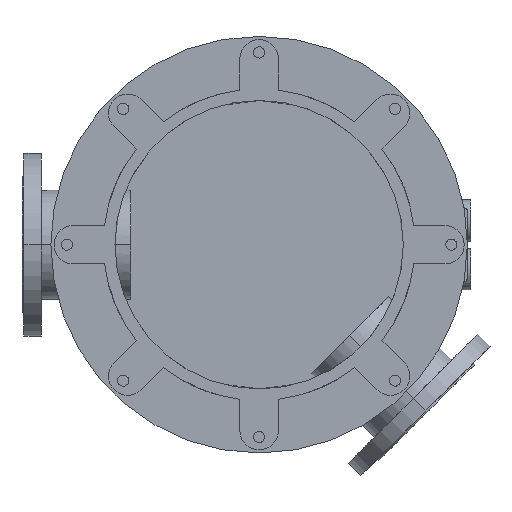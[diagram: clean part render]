
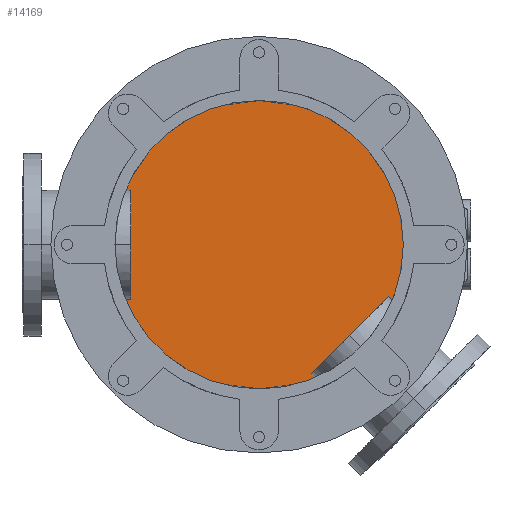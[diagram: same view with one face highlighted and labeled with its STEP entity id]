
A CAD part, front view. The second image highlights one B-rep face of the part: STEP entity #14169.
In plain terms, the highlighted planar face has unit normal (0, -1, 0).
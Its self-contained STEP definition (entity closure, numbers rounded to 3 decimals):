
#2808=CARTESIAN_POINT('',(0.,836.,0.));
#2809=DIRECTION('',(0.,-1.,0.));
#2810=DIRECTION('',(0.,0.,1.));
#2811=AXIS2_PLACEMENT_3D('',#2808,#2809,#2810);
#2935=CARTESIAN_POINT('',(0.,836.,0.));
#2936=DIRECTION('',(0.,-1.,0.));
#2937=DIRECTION('',(0.,0.,-1.));
#2938=AXIS2_PLACEMENT_3D('',#2935,#2936,#2937);
#9194=CARTESIAN_POINT('',(0.,836.,240.));
#9195=CARTESIAN_POINT('',(0.,836.,-240.));
#9196=VERTEX_POINT('',#9194);
#9197=VERTEX_POINT('',#9195);
#14159=CARTESIAN_POINT('',(0.,836.,0.));
#14160=DIRECTION('',(0.,1.,0.));
#14161=DIRECTION('',(0.,0.,-1.));
#14162=AXIS2_PLACEMENT_3D('',#14159,#14160,#14161);
#14163=PLANE('',#14162);
#14164=ORIENTED_EDGE('',*,*,#14143,.F.);
#14166=ORIENTED_EDGE('',*,*,#14165,.F.);
#14167=EDGE_LOOP('',(#14164,#14166));
#14168=FACE_OUTER_BOUND('',#14167,.F.);
#14169=ADVANCED_FACE('',(#14168),#14163,.F.);
#2812=CIRCLE('',#2811,240.);
#2939=CIRCLE('',#2938,240.);
#14143=EDGE_CURVE('',#9196,#9197,#2812,.T.);
#14165=EDGE_CURVE('',#9197,#9196,#2939,.T.);
